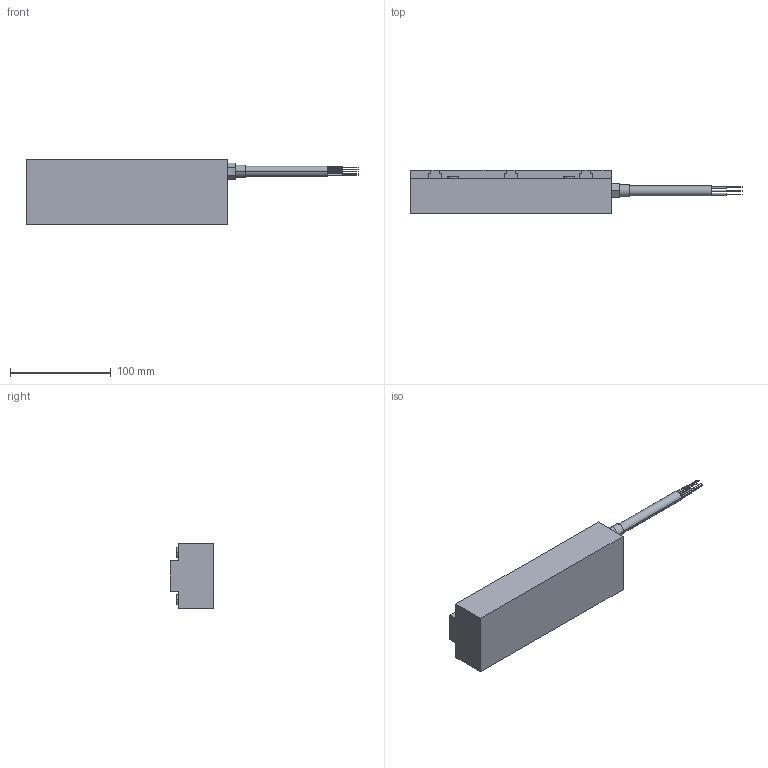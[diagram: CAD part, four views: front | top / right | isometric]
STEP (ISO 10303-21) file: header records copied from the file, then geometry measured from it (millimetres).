
FILE_DESCRIPTION((''),'2;1');
FILE_NAME('IC11-30','2010-03-09T',('brad.winesett'),('Kollmorgen'),'PRO/ENGINEER BY PARAMETRIC TECHNOLOGY CORPORATION, 2006510','PRO/ENGINEER BY PARAMETRIC TECHNOLOGY CORPORATION, 2006510','');
FILE_SCHEMA(('CONFIG_CONTROL_DESIGN'));
Length unit declared in the file: millimetre
Products named in the file (1): IC11-30
Bounding box: 330.2 x 43.3 x 65 mm (x, y, z)
Volume: 513505.5 mm3; surface area: 57846.3 mm2
Topology: 1 solids, 7 shells, 178 faces, 426 edges, 278 vertices
Faces by surface type: plane 98, cylinder 68, cone 12
Entity records: 5143 total; most frequent: DIRECTION 920, CARTESIAN_POINT 871, ORIENTED_EDGE 804, EDGE_CURVE 414, AXIS2_PLACEMENT_3D 327, VERTEX_POINT 278, VECTOR 266, LINE 266
